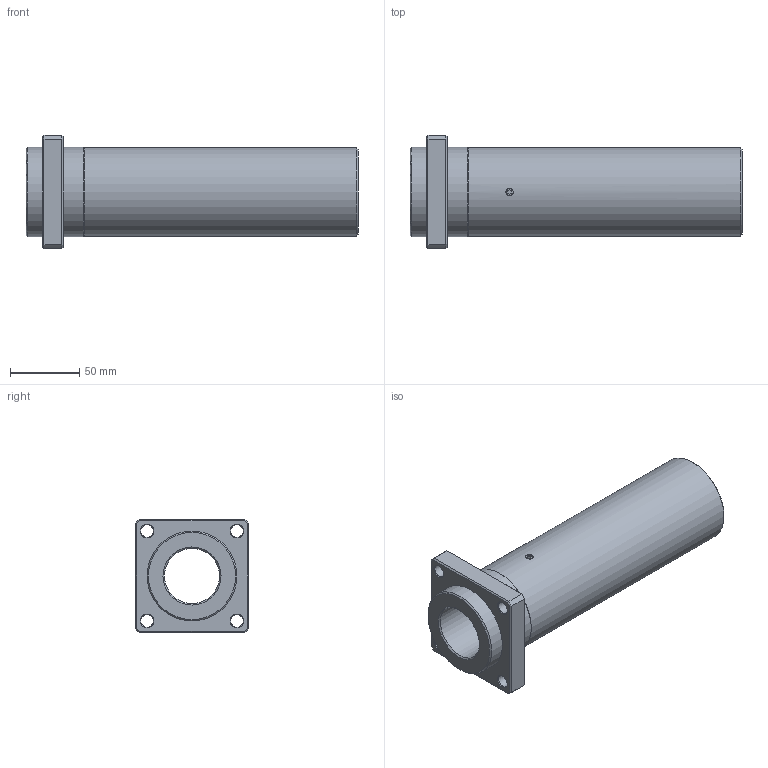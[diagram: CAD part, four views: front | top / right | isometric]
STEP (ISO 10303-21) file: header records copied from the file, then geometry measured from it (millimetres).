
FILE_DESCRIPTION(('STEP AP203'),'1');
FILE_NAME('//192.168.1.1/share/s-4 技術開発/s-4-14_個人別フォルダ/橋詰/09_CAD_DATA/3D/HP用/3Ｄモデル/LCF/LCF-BL/LCF-40BLUU.step','2021-12-09T05:14:18',(' '),(' '),'Spatial InterOp 3D',' ',' ');
FILE_SCHEMA(('CONFIG_CONTROL_DESIGN'));
Length unit declared in the file: millimetre
Products named in the file (2): 1; 2
Bounding box: 240 x 82 x 82 mm (x, y, z)
Volume: 520903 mm3; surface area: 91806.5 mm2
Topology: 2 solids, 2 shells, 62 faces, 143 edges, 86 vertices
Faces by surface type: plane 25, cone 23, cylinder 14
Full cylindrical faces by diameter (mm): 5.25 x1, 6 x1, 9 x4, 40 x1, 64 x1, 65 x2
Entity records: 1774 total; most frequent: CARTESIAN_POINT 424, DIRECTION 266, ORIENTED_EDGE 216, AXIS2_PLACEMENT_3D 112, EDGE_CURVE 108, EDGE_LOOP 102, VERTEX_POINT 78, FACE_OUTER_BOUND 72
